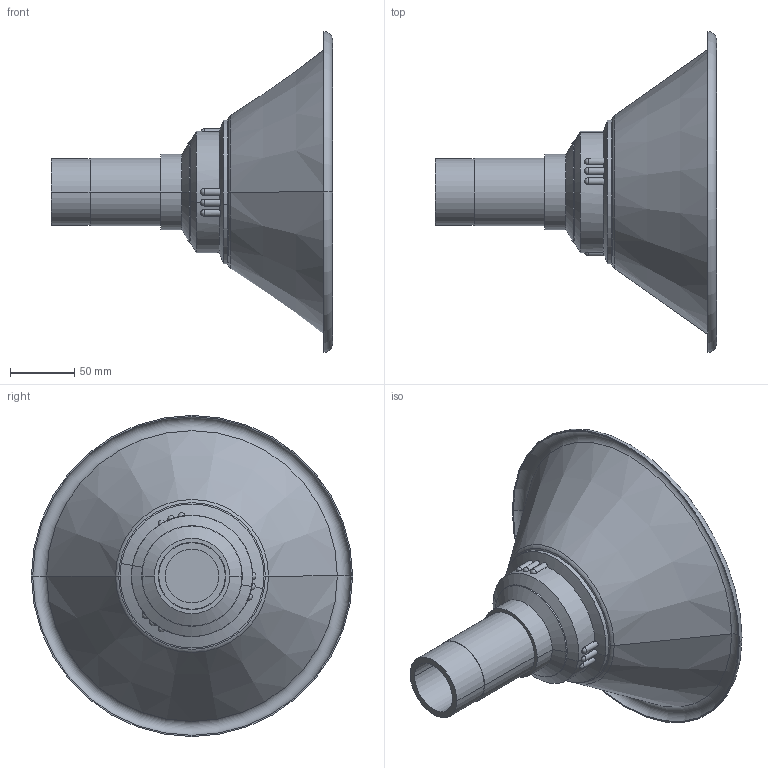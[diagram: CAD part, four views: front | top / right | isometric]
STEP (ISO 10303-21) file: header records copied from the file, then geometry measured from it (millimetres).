
FILE_DESCRIPTION((''),'2;1');
FILE_NAME('MEM250-50','2015-12-02T',('Tomas Bellgran'),(''),'PRO/ENGINEER BY PARAMETRIC TECHNOLOGY CORPORATION, 2013410','PRO/ENGINEER BY PARAMETRIC TECHNOLOGY CORPORATION, 2013410','');
FILE_SCHEMA(('AUTOMOTIVE_DESIGN { 1 0 10303 214 1 1 1 1 }'));
Length unit declared in the file: millimetre
Products named in the file (6): 116334_AF0; 117001_AF0; 117014; 116921; 117011; MEM250-50
Assembly tree (5 placements, depth 3):
  MEM250-50
    117014
      116334_AF0
      117001_AF0
    116921
    117011
Bounding box: 218.79 x 250 x 250 mm (x, y, z)
Volume: 330173.2 mm3; surface area: 220774.8 mm2
Topology: 4 solids, 4 shells, 131 faces, 287 edges, 165 vertices
Faces by surface type: cylinder 33, cone 32, plane 27, bspline 18, sphere 13, torus 8
Entity records: 6861 total; most frequent: CARTESIAN_POINT 2431, DIRECTION 606, ORIENTED_EDGE 574, EDGE_CURVE 287, AXIS2_PLACEMENT_3D 257, PROPERTY_DEFINITION 237, REPRESENTATION 233, PROPERTY_DEFINITION_REPRESENTATION 233
